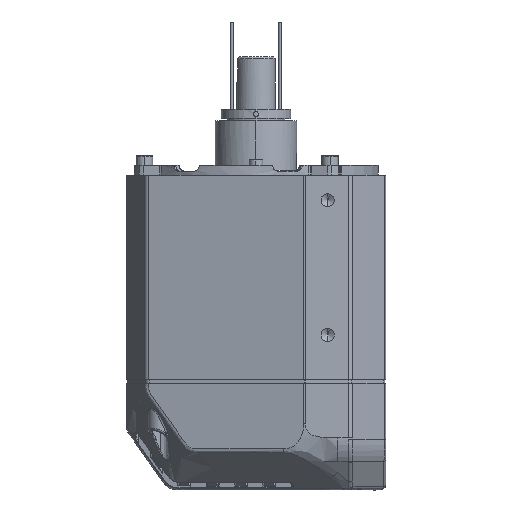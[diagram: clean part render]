
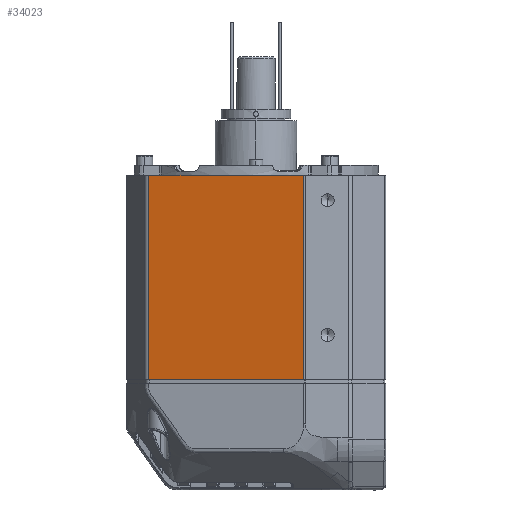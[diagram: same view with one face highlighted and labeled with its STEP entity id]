
A CAD part, left-side view. The second image highlights one B-rep face of the part: STEP entity #34023.
In plain terms, the highlighted planar face has unit normal (-0.972, 0.236, 0).
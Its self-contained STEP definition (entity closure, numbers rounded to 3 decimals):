
#1323 = DIRECTION ( 'NONE',  ( -0.236, -0.972, 0. ) ) ;
#10877 = VECTOR ( 'NONE', #17461, 1000. ) ;
#15630 = LINE ( 'NONE', #133755, #274139 ) ;
#17461 = DIRECTION ( 'NONE',  ( 0., 0., -1. ) ) ;
#33427 = LINE ( 'NONE', #119445, #96393 ) ;
#34023 = ADVANCED_FACE ( 'NONE', ( #64873 ), #173198, .F. ) ;
#51497 = CARTESIAN_POINT ( 'NONE',  ( -74.916, -24.652, 54.25 ) ) ;
#59766 = VERTEX_POINT ( 'NONE', #51497 ) ;
#60043 = ORIENTED_EDGE ( 'NONE', *, *, #301950, .T. ) ;
#64873 = FACE_OUTER_BOUND ( 'NONE', #293128, .T. ) ;
#85468 = DIRECTION ( 'NONE',  ( -0.236, -0.972, 0. ) ) ;
#88651 = ORIENTED_EDGE ( 'NONE', *, *, #283767, .T. ) ;
#96393 = VECTOR ( 'NONE', #199166, 1000. ) ;
#119445 = CARTESIAN_POINT ( 'NONE',  ( -55.532, 55.317, 54.25 ) ) ;
#133755 = CARTESIAN_POINT ( 'NONE',  ( -74.916, -24.652, 54.25 ) ) ;
#142219 = ORIENTED_EDGE ( 'NONE', *, *, #291998, .F. ) ;
#143999 = LINE ( 'NONE', #248702, #198910 ) ;
#149237 = CARTESIAN_POINT ( 'NONE',  ( -74.916, -24.652, 54.25 ) ) ;
#154731 = CARTESIAN_POINT ( 'NONE',  ( -55.532, 55.317, 54.25 ) ) ;
#173198 = PLANE ( 'NONE',  #225294 ) ;
#187625 = ORIENTED_EDGE ( 'NONE', *, *, #238566, .F. ) ;
#195086 = DIRECTION ( 'NONE',  ( 0.972, -0.236, 0. ) ) ;
#198910 = VECTOR ( 'NONE', #1323, 1000. ) ;
#199166 = DIRECTION ( 'NONE',  ( 0., 0., -1. ) ) ;
#225294 = AXIS2_PLACEMENT_3D ( 'NONE', #149237, #195086, #319873 ) ;
#237941 = LINE ( 'NONE', #317473, #10877 ) ;
#238566 = EDGE_CURVE ( 'NONE', #59766, #292908, #237941, .T. ) ;
#240807 = CARTESIAN_POINT ( 'NONE',  ( -55.532, 55.317, -51.05 ) ) ;
#248702 = CARTESIAN_POINT ( 'NONE',  ( -74.916, -24.652, -51.05 ) ) ;
#257235 = VERTEX_POINT ( 'NONE', #240807 ) ;
#274139 = VECTOR ( 'NONE', #85468, 1000. ) ;
#278267 = VERTEX_POINT ( 'NONE', #154731 ) ;
#283767 = EDGE_CURVE ( 'NONE', #278267, #257235, #33427, .T. ) ;
#291998 = EDGE_CURVE ( 'NONE', #278267, #59766, #15630, .T. ) ;
#292908 = VERTEX_POINT ( 'NONE', #315892 ) ;
#293128 = EDGE_LOOP ( 'NONE', ( #88651, #60043, #187625, #142219 ) ) ;
#301950 = EDGE_CURVE ( 'NONE', #257235, #292908, #143999, .T. ) ;
#315892 = CARTESIAN_POINT ( 'NONE',  ( -74.916, -24.652, -51.05 ) ) ;
#317473 = CARTESIAN_POINT ( 'NONE',  ( -74.916, -24.652, 54.25 ) ) ;
#319873 = DIRECTION ( 'NONE',  ( 0.236, 0.972, 0. ) ) ;
